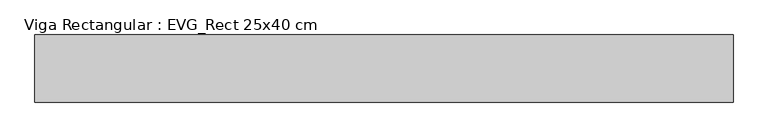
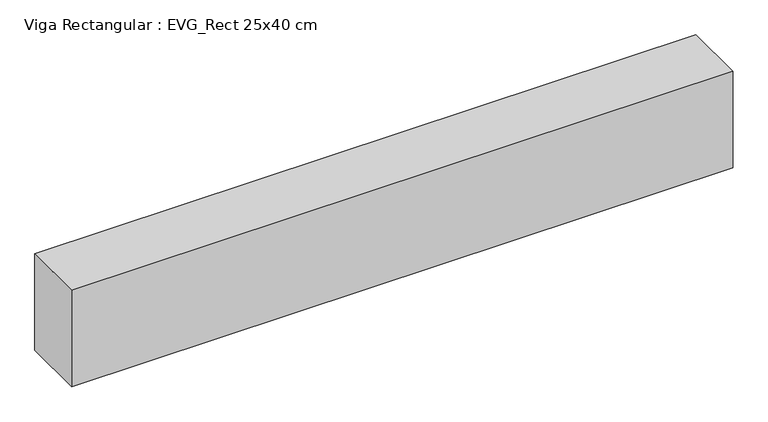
"""IFC4 building model written with IfcOpenShell, lengths in millimetres: beam geometry, Viga Rectangular : EVG_Rect 25x40 cm."""

import ifcopenshell
import ifcopenshell.guid

model = None  # the IFC model being written
_history = None  # IfcOwnerHistory: only IFC2X3 demands one
_inside = {}  # id of a spatial element -> (the spatial element, [elements in it])
_under = {}  # id of a project, library or spatial element -> (it, [spatial elements below it])
_declared = {}  # id of a project -> (the project, [libraries it declares])
_typed = {}  # id of a type object -> (the type object, [elements of that type])
_made_of = {}  # id of a material, layer set ... -> (it, [elements and type objects made of it])


def new_model(schema):
    """Start an empty IFC model of exactly this schema.

    Asked for "IFC4X3", IfcOpenShell would pick the latest addendum, in which some entities
    have other attributes; the version numbers below select the first issue.
    IFC2X3 requires an IfcOwnerHistory on every rooted entity: one is made here for all.
    """
    global model, _history
    if schema == "IFC4X3":
        model = ifcopenshell.file(schema_version=(4, 3, 0, 0))
    else:
        model = ifcopenshell.file(schema=schema)
    _inside.clear()
    _under.clear()
    _declared.clear()
    _typed.clear()
    _made_of.clear()
    _history = None
    if model.schema == "IFC2X3":
        org = make("IfcOrganization", Name="unknown")
        user = make(
            "IfcPersonAndOrganization",
            ThePerson=make("IfcPerson", FamilyName="unknown"),
            TheOrganization=org,
        )
        app = make(
            "IfcApplication",
            ApplicationDeveloper=org,
            Version="unknown",
            ApplicationFullName="unknown",
            ApplicationIdentifier="unknown",
        )
        _history = make(
            "IfcOwnerHistory",
            OwningUser=user,
            OwningApplication=app,
            ChangeAction="ADDED",
            CreationDate=0,
        )
    return model


def make(cls, **values):
    """One entity of the class cls with the attributes given. An attribute that is None is left unset."""
    return model.create_entity(
        cls, **{name: value for name, value in values.items() if value is not None}
    )


def rooted(cls, **values):
    """An entity with a GlobalId (a new one), such as an element, a storey or a relation."""
    return make(cls, GlobalId=ifcopenshell.guid.new(), OwnerHistory=_history, **values)


def si_unit(unit_type, name, prefix=None):
    """IfcSIUnit, for example si_unit("LENGTHUNIT", "METRE", prefix="MILLI")."""
    return make("IfcSIUnit", UnitType=unit_type, Prefix=prefix, Name=name)


def assignment(units):
    """IfcUnitAssignment: the units of a project."""
    return None if units is None else make("IfcUnitAssignment", Units=units)


def point(xyz):
    """IfcCartesianPoint."""
    return None if xyz is None else make("IfcCartesianPoint", Coordinates=xyz)


def direction(xyz):
    """IfcDirection."""
    return None if xyz is None else make("IfcDirection", DirectionRatios=xyz)


def frame(location, z_axis=None, x_axis=None):
    """IfcAxis2Placement3D, a coordinate frame: its origin and axes. An axis left out is left unset."""
    return make(
        "IfcAxis2Placement3D",
        Location=point(location),
        Axis=direction(z_axis),
        RefDirection=direction(x_axis),
    )


def origin():
    """The frame at (0, 0, 0) with its axes left unset."""
    return frame((0.0, 0.0, 0.0))


def place(relative_to, where):
    """IfcLocalPlacement: puts the frame where relative to a parent placement (None: the world)."""
    return make(
        "IfcLocalPlacement", PlacementRelTo=relative_to, RelativePlacement=where
    )


def context(
    kind, dimensions, precision=None, world=None, true_north=None, identifier=None
):
    """IfcGeometricRepresentationContext, for example the 3D "Model" context."""
    return make(
        "IfcGeometricRepresentationContext",
        ContextIdentifier=identifier,
        ContextType=kind,
        CoordinateSpaceDimension=dimensions,
        Precision=precision,
        WorldCoordinateSystem=world,
        TrueNorth=true_north,
    )


def project(units=None, contexts=None):
    """IfcProject with its units and contexts."""
    return rooted(
        "IfcProject",
        Name="project",
        RepresentationContexts=contexts,
        UnitsInContext=assignment(units),
    )


def spatial(cls, under=None, at=None, **own):
    """A site, building, storey or space (cls), placed at a placement, below another one or the project."""
    s = rooted(cls, ObjectPlacement=at, **own)
    if under is not None:
        _under.setdefault(under.id(), (under, []))[1].append(s)
    return s


def polyline(points):
    """IfcPolyline through the points."""
    return make("IfcPolyline", Points=[point(p) for p in points])


def outline(outer, holes=None, kind="AREA"):
    """IfcArbitraryClosedProfileDef: a profile drawn as a closed curve; with holes, ...WithVoids."""
    if holes is None:
        return make("IfcArbitraryClosedProfileDef", ProfileType=kind, OuterCurve=outer)
    return make(
        "IfcArbitraryProfileDefWithVoids",
        ProfileType=kind,
        OuterCurve=outer,
        InnerCurves=holes,
    )


def extrude(swept, where, along, depth):
    """IfcExtrudedAreaSolid: the profile swept, set in the frame where, extruded along a direction by depth."""
    return make(
        "IfcExtrudedAreaSolid",
        SweptArea=swept,
        Position=where,
        ExtrudedDirection=direction(along),
        Depth=depth,
    )


def shape(context_of_items, identifier, shape_type, items):
    """IfcShapeRepresentation: the items that make up one representation, for example the "Body"."""
    return make(
        "IfcShapeRepresentation",
        ContextOfItems=context_of_items,
        RepresentationIdentifier=identifier,
        RepresentationType=shape_type,
        Items=items,
    )


def source(mapping_origin, context_of_items, identifier, shape_type, items):
    """IfcRepresentationMap: a shape defined once, which mapped items show again and again."""
    return make(
        "IfcRepresentationMap",
        MappingOrigin=mapping_origin,
        MappedRepresentation=shape(context_of_items, identifier, shape_type, items),
    )


def transform(
    local_origin,
    x_axis=None,
    y_axis=None,
    z_axis=None,
    scale=None,
    scale2=None,
    scale3=None,
    uniform=True,
):
    """IfcCartesianTransformationOperator3D, or its non-uniform kind. x_axis, y_axis, z_axis: its Axis1, 2, 3."""
    if uniform:
        return make(
            "IfcCartesianTransformationOperator3D",
            Axis1=direction(x_axis),
            Axis2=direction(y_axis),
            LocalOrigin=point(local_origin),
            Scale=scale,
            Axis3=direction(z_axis),
        )
    return make(
        "IfcCartesianTransformationOperator3DnonUniform",
        Axis1=direction(x_axis),
        Axis2=direction(y_axis),
        LocalOrigin=point(local_origin),
        Scale=scale,
        Axis3=direction(z_axis),
        Scale2=scale2,
        Scale3=scale3,
    )


def mapped(mapping_source, mapping_target):
    """IfcMappedItem: shows the shape of a source again, moved by a transform."""
    return make(
        "IfcMappedItem", MappingSource=mapping_source, MappingTarget=mapping_target
    )


def made_of(thing, what):
    """Note that an element or type object is made of a material, layer set ...; save() writes the relation."""
    if what is not None:
        _made_of.setdefault(what.id(), (what, []))[1].append(thing)
    return thing


def element(
    cls,
    number,
    at=None,
    inside=None,
    cuts=None,
    type_object=None,
    material=None,
    context=None,
    identifier="Body",
    shape_type=None,
    held_by="IfcProductDefinitionShape",
    body=None,
    shapes=None,
    **own,
):
    """One element of the class cls, such as IfcWall. Its Tag is "e" and its number.

    at: its placement. inside: the storey or other place that contains it. cuts: it is an
    opening in that element (IfcRelVoidsElement). A single representation is given by context,
    identifier, shape_type and body (its items); several are given by shapes. held_by: the class
    of the entity that holds the representations. save() writes the other relations.
    """
    e = rooted(cls, Tag="e%d" % number, ObjectPlacement=at, **own)
    if body is not None:
        shapes = [shape(context, identifier, shape_type, body)]
    if shapes is not None:
        e.Representation = make(held_by, Representations=shapes)
    if inside is not None:
        _inside.setdefault(inside.id(), (inside, []))[1].append(e)
    if cuts is not None:
        rooted(
            "IfcRelVoidsElement", RelatingBuildingElement=cuts, RelatedOpeningElement=e
        )
    if type_object is not None:
        _typed.setdefault(type_object.id(), (type_object, []))[1].append(e)
    return made_of(e, material)


def aggregate(whole, parts):
    """IfcRelAggregates: a whole, such as a stair, and the parts it consists of."""
    return rooted("IfcRelAggregates", RelatingObject=whole, RelatedObjects=parts)


def save(model, path):
    """Write the relations noted so far, then the file.

    IfcRelAggregates (storeys below a building ...), IfcRelContainedInSpatialStructure (elements
    in a storey), IfcRelDefinesByType, IfcRelAssociatesMaterial and IfcRelDeclares: one each for
    every whole, place, type object, material and project.
    """
    for whole, parts in _under.values():
        aggregate(whole, parts)
    for where, things in _inside.values():
        rooted(
            "IfcRelContainedInSpatialStructure",
            RelatedElements=things,
            RelatingStructure=where,
        )
    for kind, things in _typed.values():
        rooted("IfcRelDefinesByType", RelatedObjects=things, RelatingType=kind)
    for what, things in _made_of.values():
        rooted("IfcRelAssociatesMaterial", RelatedObjects=things, RelatingMaterial=what)
    for by, libraries in _declared.values():
        rooted("IfcRelDeclares", RelatingContext=by, RelatedDefinitions=libraries)
    model.write(path)


def viga_rectangular_evg_rect_25x40_cm_85c841cc(model_context):
    return source(origin(), model_context, "Body", "SweptSolid", [
        extrude(outline(polyline([(1375.0, 125.0), (1375.0, -125.0), (-1225.0, -125.0), (-1225.0, 125.0), (1375.0, 125.0)])), frame((0.0, 0.0, -400.0), z_axis=(0.0, 0.0, 1.0), x_axis=(1.0, 0.0, 0.0)), (0.0, 0.0, 1.0), 400.0),
    ])


if __name__ == "__main__":
    model = new_model("IFC4")
    model_context = context("Model", 3, world=origin())
    ifc_project = project(units=[si_unit("LENGTHUNIT", "METRE", prefix="MILLI")], contexts=[model_context])
    site = spatial("IfcSite", under=ifc_project)
    building = spatial("IfcBuilding", under=site)
    placement = place(None, origin())
    viga_rectangular_evg_rect_25x40_cm_shape = viga_rectangular_evg_rect_25x40_cm_85c841cc(model_context)
    element("IfcBeam", 1, ObjectType="Viga Rectangular : EVG_Rect 25x40 cm", at=placement, inside=building, context=model_context, shape_type="MappedRepresentation", body=[
        mapped(viga_rectangular_evg_rect_25x40_cm_shape, transform((0.0, 0.0, 0.0), x_axis=(1.0, 0.0, 0.0), y_axis=(0.0, 1.0, 0.0), z_axis=(0.0, 0.0, 1.0))),
    ])
    save(model, "model.ifc")
